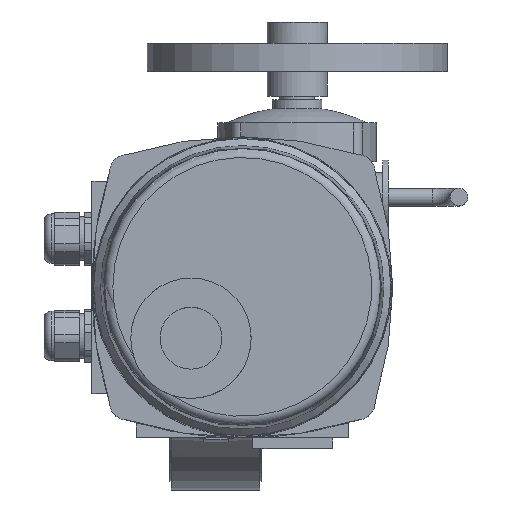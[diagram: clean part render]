
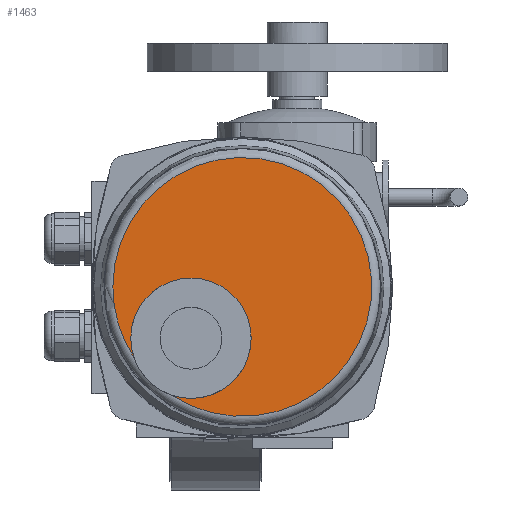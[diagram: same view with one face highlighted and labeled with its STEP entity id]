
A CAD part, top view. The second image highlights one B-rep face of the part: STEP entity #1463.
In plain terms, the highlighted planar face has unit normal (0, 0, 1).
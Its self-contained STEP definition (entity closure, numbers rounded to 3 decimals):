
#1463=ADVANCED_FACE('',(#8832),#8834,.T.);
#8832=FACE_BOUND('',#8833,.T.);
#8833=EDGE_LOOP('',(#15331,#15332,#15333,#15334));
#8834=PLANE('',#8835);
#8835=AXIS2_PLACEMENT_3D('',#8836,#8837,#8838);
#8836=CARTESIAN_POINT('',(15.,35.,432.));
#8837=DIRECTION('',(0.,0.,1.));
#8838=DIRECTION('',(-1.,0.,0.));
#15331=ORIENTED_EDGE('',*,*,#19533,.F.);
#15332=ORIENTED_EDGE('',*,*,#19534,.F.);
#15333=ORIENTED_EDGE('',*,*,#19515,.F.);
#15334=ORIENTED_EDGE('',*,*,#19514,.F.);
#19514=EDGE_CURVE('',#22074,#22077,#22078,.T.);
#19515=EDGE_CURVE('',#22077,#22075,#22079,.T.);
#19533=EDGE_CURVE('',#22102,#22074,#22103,.T.);
#19534=EDGE_CURVE('',#22075,#22102,#22104,.T.);
#22074=VERTEX_POINT('',#27085);
#22075=VERTEX_POINT('',#27086);
#22077=VERTEX_POINT('',#27115);
#22078=CIRCLE('',#27116,73.139);
#22079=CIRCLE('',#27120,73.139);
#22102=VERTEX_POINT('',#27197);
#22103=CIRCLE('',#27198,34.);
#22104=CIRCLE('',#27202,34.);
#27085=CARTESIAN_POINT('',(-46.08,-5.231,432.));
#27086=CARTESIAN_POINT('',(-25.231,-26.08,432.));
#27115=CARTESIAN_POINT('',(-58.139,35.,432.));
#27116=AXIS2_PLACEMENT_3D('',#27117,#27118,#27119);
#27117=CARTESIAN_POINT('',(15.,35.,432.));
#27118=DIRECTION('',(0.,0.,-1.));
#27119=DIRECTION('',(-0.835,-0.55,0.));
#27120=AXIS2_PLACEMENT_3D('',#27121,#27122,#27123);
#27121=CARTESIAN_POINT('',(15.,35.,432.));
#27122=DIRECTION('',(0.,0.,-1.));
#27123=DIRECTION('',(-1.,0.,0.));
#27197=CARTESIAN_POINT('',(-13.991,40.009,432.));
#27198=AXIS2_PLACEMENT_3D('',#27199,#27200,#27201);
#27199=CARTESIAN_POINT('',(-13.991,6.009,432.));
#27200=DIRECTION('',(0.,0.,1.));
#27201=DIRECTION('',(0.,1.,0.));
#27202=AXIS2_PLACEMENT_3D('',#27203,#27204,#27205);
#27203=CARTESIAN_POINT('',(-13.991,6.009,432.));
#27204=DIRECTION('',(0.,0.,1.));
#27205=DIRECTION('',(-0.331,-0.944,0.));
